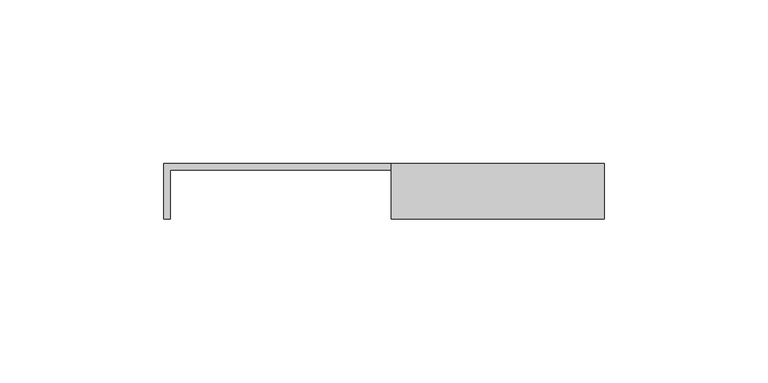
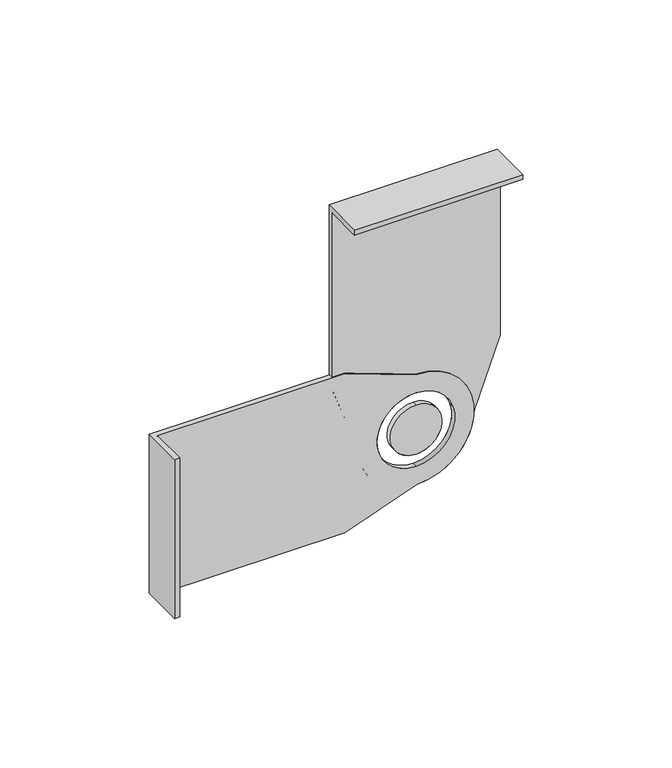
"""IFC4 building model written with IfcOpenShell, lengths in millimetres: cable carrier fitting geometry, BAKS_LD_TEE_Articulated connector attachable_LDD : LDDC_H45."""

import ifcopenshell
import ifcopenshell.guid

model = None  # the IFC model being written
_history = None  # IfcOwnerHistory: only IFC2X3 demands one
_inside = {}  # id of a spatial element -> (the spatial element, [elements in it])
_under = {}  # id of a project, library or spatial element -> (it, [spatial elements below it])
_declared = {}  # id of a project -> (the project, [libraries it declares])
_typed = {}  # id of a type object -> (the type object, [elements of that type])
_made_of = {}  # id of a material, layer set ... -> (it, [elements and type objects made of it])


def new_model(schema):
    """Start an empty IFC model of exactly this schema.

    Asked for "IFC4X3", IfcOpenShell would pick the latest addendum, in which some entities
    have other attributes; the version numbers below select the first issue.
    IFC2X3 requires an IfcOwnerHistory on every rooted entity: one is made here for all.
    """
    global model, _history
    if schema == "IFC4X3":
        model = ifcopenshell.file(schema_version=(4, 3, 0, 0))
    else:
        model = ifcopenshell.file(schema=schema)
    _inside.clear()
    _under.clear()
    _declared.clear()
    _typed.clear()
    _made_of.clear()
    _history = None
    if model.schema == "IFC2X3":
        org = make("IfcOrganization", Name="unknown")
        user = make(
            "IfcPersonAndOrganization",
            ThePerson=make("IfcPerson", FamilyName="unknown"),
            TheOrganization=org,
        )
        app = make(
            "IfcApplication",
            ApplicationDeveloper=org,
            Version="unknown",
            ApplicationFullName="unknown",
            ApplicationIdentifier="unknown",
        )
        _history = make(
            "IfcOwnerHistory",
            OwningUser=user,
            OwningApplication=app,
            ChangeAction="ADDED",
            CreationDate=0,
        )
    return model


def make(cls, **values):
    """One entity of the class cls with the attributes given. An attribute that is None is left unset."""
    return model.create_entity(
        cls, **{name: value for name, value in values.items() if value is not None}
    )


def rooted(cls, **values):
    """An entity with a GlobalId (a new one), such as an element, a storey or a relation."""
    return make(cls, GlobalId=ifcopenshell.guid.new(), OwnerHistory=_history, **values)


def si_unit(unit_type, name, prefix=None):
    """IfcSIUnit, for example si_unit("LENGTHUNIT", "METRE", prefix="MILLI")."""
    return make("IfcSIUnit", UnitType=unit_type, Prefix=prefix, Name=name)


def assignment(units):
    """IfcUnitAssignment: the units of a project."""
    return None if units is None else make("IfcUnitAssignment", Units=units)


def point(xyz):
    """IfcCartesianPoint."""
    return None if xyz is None else make("IfcCartesianPoint", Coordinates=xyz)


def direction(xyz):
    """IfcDirection."""
    return None if xyz is None else make("IfcDirection", DirectionRatios=xyz)


def frame(location, z_axis=None, x_axis=None):
    """IfcAxis2Placement3D, a coordinate frame: its origin and axes. An axis left out is left unset."""
    return make(
        "IfcAxis2Placement3D",
        Location=point(location),
        Axis=direction(z_axis),
        RefDirection=direction(x_axis),
    )


def origin():
    """The frame at (0, 0, 0) with its axes left unset."""
    return frame((0.0, 0.0, 0.0))


def place(relative_to, where):
    """IfcLocalPlacement: puts the frame where relative to a parent placement (None: the world)."""
    return make(
        "IfcLocalPlacement", PlacementRelTo=relative_to, RelativePlacement=where
    )


def context(
    kind, dimensions, precision=None, world=None, true_north=None, identifier=None
):
    """IfcGeometricRepresentationContext, for example the 3D "Model" context."""
    return make(
        "IfcGeometricRepresentationContext",
        ContextIdentifier=identifier,
        ContextType=kind,
        CoordinateSpaceDimension=dimensions,
        Precision=precision,
        WorldCoordinateSystem=world,
        TrueNorth=true_north,
    )


def project(units=None, contexts=None):
    """IfcProject with its units and contexts."""
    return rooted(
        "IfcProject",
        Name="project",
        RepresentationContexts=contexts,
        UnitsInContext=assignment(units),
    )


def spatial(cls, under=None, at=None, **own):
    """A site, building, storey or space (cls), placed at a placement, below another one or the project."""
    s = rooted(cls, ObjectPlacement=at, **own)
    if under is not None:
        _under.setdefault(under.id(), (under, []))[1].append(s)
    return s


def polyline(points):
    """IfcPolyline through the points."""
    return make("IfcPolyline", Points=[point(p) for p in points])


def circle_curve(where, radius):
    """IfcCircle in the frame where."""
    return make("IfcCircle", Position=where, Radius=radius)


def shape(context_of_items, identifier, shape_type, items):
    """IfcShapeRepresentation: the items that make up one representation, for example the "Body"."""
    return make(
        "IfcShapeRepresentation",
        ContextOfItems=context_of_items,
        RepresentationIdentifier=identifier,
        RepresentationType=shape_type,
        Items=items,
    )


def source(mapping_origin, context_of_items, identifier, shape_type, items):
    """IfcRepresentationMap: a shape defined once, which mapped items show again and again."""
    return make(
        "IfcRepresentationMap",
        MappingOrigin=mapping_origin,
        MappedRepresentation=shape(context_of_items, identifier, shape_type, items),
    )


def transform(
    local_origin,
    x_axis=None,
    y_axis=None,
    z_axis=None,
    scale=None,
    scale2=None,
    scale3=None,
    uniform=True,
):
    """IfcCartesianTransformationOperator3D, or its non-uniform kind. x_axis, y_axis, z_axis: its Axis1, 2, 3."""
    if uniform:
        return make(
            "IfcCartesianTransformationOperator3D",
            Axis1=direction(x_axis),
            Axis2=direction(y_axis),
            LocalOrigin=point(local_origin),
            Scale=scale,
            Axis3=direction(z_axis),
        )
    return make(
        "IfcCartesianTransformationOperator3DnonUniform",
        Axis1=direction(x_axis),
        Axis2=direction(y_axis),
        LocalOrigin=point(local_origin),
        Scale=scale,
        Axis3=direction(z_axis),
        Scale2=scale2,
        Scale3=scale3,
    )


def mapped(mapping_source, mapping_target):
    """IfcMappedItem: shows the shape of a source again, moved by a transform."""
    return make(
        "IfcMappedItem", MappingSource=mapping_source, MappingTarget=mapping_target
    )


def made_of(thing, what):
    """Note that an element or type object is made of a material, layer set ...; save() writes the relation."""
    if what is not None:
        _made_of.setdefault(what.id(), (what, []))[1].append(thing)
    return thing


def element(
    cls,
    number,
    at=None,
    inside=None,
    cuts=None,
    type_object=None,
    material=None,
    context=None,
    identifier="Body",
    shape_type=None,
    held_by="IfcProductDefinitionShape",
    body=None,
    shapes=None,
    **own,
):
    """One element of the class cls, such as IfcWall. Its Tag is "e" and its number.

    at: its placement. inside: the storey or other place that contains it. cuts: it is an
    opening in that element (IfcRelVoidsElement). A single representation is given by context,
    identifier, shape_type and body (its items); several are given by shapes. held_by: the class
    of the entity that holds the representations. save() writes the other relations.
    """
    e = rooted(cls, Tag="e%d" % number, ObjectPlacement=at, **own)
    if body is not None:
        shapes = [shape(context, identifier, shape_type, body)]
    if shapes is not None:
        e.Representation = make(held_by, Representations=shapes)
    if inside is not None:
        _inside.setdefault(inside.id(), (inside, []))[1].append(e)
    if cuts is not None:
        rooted(
            "IfcRelVoidsElement", RelatingBuildingElement=cuts, RelatedOpeningElement=e
        )
    if type_object is not None:
        _typed.setdefault(type_object.id(), (type_object, []))[1].append(e)
    return made_of(e, material)


def aggregate(whole, parts):
    """IfcRelAggregates: a whole, such as a stair, and the parts it consists of."""
    return rooted("IfcRelAggregates", RelatingObject=whole, RelatedObjects=parts)


def save(model, path):
    """Write the relations noted so far, then the file.

    IfcRelAggregates (storeys below a building ...), IfcRelContainedInSpatialStructure (elements
    in a storey), IfcRelDefinesByType, IfcRelAssociatesMaterial and IfcRelDeclares: one each for
    every whole, place, type object, material and project.
    """
    for whole, parts in _under.values():
        aggregate(whole, parts)
    for where, things in _inside.values():
        rooted(
            "IfcRelContainedInSpatialStructure",
            RelatedElements=things,
            RelatingStructure=where,
        )
    for kind, things in _typed.values():
        rooted("IfcRelDefinesByType", RelatedObjects=things, RelatingType=kind)
    for what, things in _made_of.values():
        rooted("IfcRelAssociatesMaterial", RelatedObjects=things, RelatingMaterial=what)
    for by, libraries in _declared.values():
        rooted("IfcRelDeclares", RelatingContext=by, RelatedDefinitions=libraries)
    model.write(path)


def plane_surface(at):
    """IfcPlane: the flat surface through the origin of the frame at, square to its z axis."""
    return make("IfcPlane", Position=at)


def cylinder_surface(at, radius):
    """IfcCylindricalSurface: all points at the distance radius from the z axis of the frame at."""
    return make("IfcCylindricalSurface", Position=at, Radius=radius)


def revolved_surface(curve, axis_point, axis_direction):
    """IfcSurfaceOfRevolution: the curve turned about the line through axis_point along axis_direction."""
    return make(
        "IfcSurfaceOfRevolution",
        SweptCurve=make("IfcArbitraryOpenProfileDef", ProfileType="CURVE", Curve=curve),
        AxisPosition=make("IfcAxis1Placement", Location=point(axis_point), Axis=direction(axis_direction)),
    )


def advanced_brep(points, edges, surfaces, faces):
    """IfcAdvancedBrep: a solid bounded by faces that lie on surfaces and meet in shared edges.

    An edge is (start, end): straight between two places in points (the first is 0);
    or (start, end, curve); or (start, end, curve, False) where it runs against its curve.
    A face is (place in surfaces, loops), or (place, loops, False) where it looks against
    its surface's normal. A loop lists edges by number (the first is 1), with a minus sign
    where the edge is run from its end to its start. The first loop is the outer one.
    """
    corners = [point(p) for p in points]
    vertices = [make("IfcVertexPoint", VertexGeometry=c) for c in corners]
    made = []
    for start, end, *more in edges:
        made.append(
            make(
                "IfcEdgeCurve",
                EdgeStart=vertices[start],
                EdgeEnd=vertices[end],
                EdgeGeometry=more[0] if more else make("IfcPolyline", Points=[corners[start], corners[end]]),
                SameSense=more[1] if len(more) > 1 else True,
            )
        )
    hull = []
    for where, loops, *sense in faces:
        bounds = []
        for j, loop in enumerate(loops):
            ring = [make("IfcOrientedEdge", EdgeElement=made[abs(k) - 1], Orientation=k > 0) for k in loop]
            bounds.append(
                make(
                    "IfcFaceOuterBound" if j == 0 else "IfcFaceBound",
                    Bound=make("IfcEdgeLoop", EdgeList=ring),
                    Orientation=True,
                )
            )
        hull.append(make("IfcAdvancedFace", Bounds=bounds, FaceSurface=surfaces[where], SameSense=sense[0] if sense else True))
    return make("IfcAdvancedBrep", Outer=make("IfcClosedShell", CfsFaces=hull))


def cable_carrier_fitting_ea2b664d(model_context):
    return source(origin(), model_context, "Body", "AdvancedBrep", [
        advanced_brep(
        [(0.0, 2.0, 10.0), (0.0, 2.0, -10.0), (0.0, 0.0, -10.0), (0.0, 0.0, 10.0)],
        [
            (0, 1, circle_curve(frame((0.0, 2.0, 0.0), z_axis=(0.0, 1.0, 0.0), x_axis=(0.0, 0.0, 1.0)), 10.0)),
            (1, 0, circle_curve(frame((0.0, 2.0, 0.0), z_axis=(0.0, 1.0, 0.0), x_axis=(0.0, 0.0, 1.0)), 10.0)),
            (2, 3, circle_curve(frame((0.0, 0.0, 0.0), z_axis=(0.0, -1.0, 0.0), x_axis=(0.0, 0.0, 1.0)), 10.0)),
            (3, 2, circle_curve(frame((0.0, 0.0, 0.0), z_axis=(0.0, -1.0, 0.0), x_axis=(0.0, 0.0, 1.0)), 10.0)),
            (1, 2),
            (3, 0),
        ],
        [
            plane_surface(frame((-100.0, 2.0, -32.5), z_axis=(0.0, 1.0, 0.0), x_axis=(0.0, 0.0, -1.0))),
            plane_surface(frame((-100.0, 0.0, -32.5), z_axis=(0.0, -1.0, 0.0), x_axis=(0.0, 0.0, 1.0))),
            cylinder_surface(frame((0.0, 0.0, 0.0), z_axis=(0.0, -1.0, 0.0), x_axis=(0.0, 0.0, 1.0)), 10.0),
        ],
        [
            (0, [[1, 2]]),
            (1, [[3, 4]]),
            (2, [[-2, 5, -4, 6]]),
            (2, [[-3, -5, -1, -6]]),
        ],
    ),
        advanced_brep(
        [(-27.5, 2.0, -32.5), (-102.0, 2.0, -32.5), (-102.0, 2.0, 32.5), (-27.5, 2.0, 32.5), (0.0, 2.0, 22.5), (0.0, 2.0, -22.5), (0.0, 2.0, 15.0), (0.0, 2.0, -15.0), (-100.0, 0.0, 32.5), (-100.0, 0.0, -32.5), (-27.5, 0.0, -32.5), (0.0, 0.0, -22.5), (0.0, 0.0, 22.5), (-27.5, 0.0, 32.5), (0.0, 0.0, -15.0), (0.0, 0.0, 15.0), (-100.0, -15.0, -32.5), (-102.0, -15.0, -32.5), (-102.0, -15.0, 32.5), (-100.0, -15.0, 32.5)],
        [
            (0, 1),
            (1, 2),
            (2, 3),
            (3, 4),
            (4, 5, circle_curve(frame((0.0, 2.0, 0.0), z_axis=(0.0, 1.0, 0.0), x_axis=(0.0, 0.0, 1.0)), 22.5)),
            (5, 0),
            (6, 7, circle_curve(frame((0.0, 2.0, 0.0), z_axis=(0.0, -1.0, 0.0), x_axis=(0.0, 0.0, 1.0)), 15.0)),
            (7, 6, circle_curve(frame((0.0, 2.0, 0.0), z_axis=(0.0, -1.0, 0.0), x_axis=(0.0, 0.0, 1.0)), 15.0)),
            (8, 9),
            (9, 10),
            (10, 11),
            (11, 12, circle_curve(frame((0.0, 0.0, 0.0), z_axis=(0.0, -1.0, 0.0), x_axis=(0.0, 0.0, 1.0)), 22.5)),
            (12, 13),
            (13, 8),
            (14, 15, circle_curve(frame((0.0, 0.0, 0.0), z_axis=(0.0, 1.0, 0.0), x_axis=(0.0, 0.0, 1.0)), 15.0)),
            (15, 14, circle_curve(frame((0.0, 0.0, 0.0), z_axis=(0.0, 1.0, 0.0), x_axis=(0.0, 0.0, 1.0)), 15.0)),
            (0, 10),
            (9, 16),
            (16, 17),
            (17, 1),
            (5, 11),
            (4, 12),
            (3, 13),
            (2, 18),
            (18, 19),
            (19, 8),
            (7, 14),
            (15, 6),
            (19, 16),
            (17, 18),
        ],
        [
            plane_surface(frame((-100.0, 2.0, -32.5), z_axis=(0.0, 1.0, 0.0), x_axis=(0.0, 0.0, -1.0))),
            plane_surface(frame((-100.0, 0.0, -32.5), z_axis=(0.0, -1.0, 0.0), x_axis=(0.0, 0.0, 1.0))),
            plane_surface(frame((-100.0, 2.0, -32.5), z_axis=(0.0, 0.0, -1.0), x_axis=(0.0, -1.0, 0.0))),
            plane_surface(frame((-27.5, 2.0, -32.5), z_axis=(0.34174306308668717, 0.0, -0.9397934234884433), x_axis=(0.0, -1.0, 0.0))),
            cylinder_surface(frame((0.0, 0.0, 0.0), z_axis=(0.0, 1.0, 0.0), x_axis=(0.0, 0.0, 1.0)), 22.5),
            plane_surface(frame((0.0, 2.0, 22.5), z_axis=(0.3417430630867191, 0.0, 0.9397934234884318), x_axis=(0.0, -1.0, 0.0))),
            plane_surface(frame((-27.5, 2.0, 32.5), z_axis=(0.0, 0.0, 1.0), x_axis=(0.0, -1.0, 0.0))),
            revolved_surface(polyline([(0.0, 2.0, 15.0), (0.0, 0.0, 15.0)]), (0.0, 0.0, 0.0), (0.0, 1.0, 0.0)),
            plane_surface(frame((-100.0, 2.0, -32.5), z_axis=(1.0, 0.0, 0.0), x_axis=(0.0, 0.0, -1.0))),
            plane_surface(frame((-102.0, 2.0, -32.5), z_axis=(-1.0, 0.0, 0.0), x_axis=(0.0, 0.0, 1.0))),
            plane_surface(frame((-100.0, -15.0, -32.5), z_axis=(0.0, -1.0, 0.0), x_axis=(-1.0, 0.0, 0.0))),
        ],
        [
            (0, [[1, 2, 3, 4, 5, 6], [7, 8]]),
            (1, [[9, 10, 11, 12, 13, 14], [15, 16]]),
            (2, [[17, -10, 18, 19, 20, -1]]),
            (3, [[21, -11, -17, -6]]),
            (4, [[22, -12, -21, -5]]),
            (5, [[23, -13, -22, -4]]),
            (6, [[24, 25, 26, -14, -23, -3]]),
            (7, [[-8, 27, -16, 28]]),
            (7, [[-15, -27, -7, -28]]),
            (8, [[-18, -9, -26, 29]]),
            (9, [[-2, -20, 30, -24]]),
            (10, [[-25, -30, -19, -29]]),
        ],
    ),
        advanced_brep(
        [(10.0, 2.0, 0.0), (-10.0, 2.0, 0.0), (-10.0, 0.0, 0.0), (10.0, 0.0, 0.0)],
        [
            (0, 1, circle_curve(frame((0.0, 2.0, 0.0), z_axis=(0.0, 1.0, 0.0), x_axis=(1.0, 0.0, 0.0)), 10.0)),
            (1, 0, circle_curve(frame((0.0, 2.0, 0.0), z_axis=(0.0, 1.0, 0.0), x_axis=(1.0, 0.0, 0.0)), 10.0)),
            (2, 3, circle_curve(frame((0.0, 0.0, 0.0), z_axis=(0.0, -1.0, 0.0), x_axis=(1.0, 0.0, 0.0)), 10.0)),
            (3, 2, circle_curve(frame((0.0, 0.0, 0.0), z_axis=(0.0, -1.0, 0.0), x_axis=(1.0, 0.0, 0.0)), 10.0)),
            (1, 2),
            (3, 0),
        ],
        [
            plane_surface(frame((-32.5, 2.0, 100.0), z_axis=(0.0, 1.0, 0.0), x_axis=(-1.0, 0.0, 0.0))),
            plane_surface(frame((-32.5, 0.0, 100.0), z_axis=(0.0, -1.0, 0.0), x_axis=(1.0, 0.0, 0.0))),
            cylinder_surface(frame((0.0, 0.0, 0.0), z_axis=(0.0, -1.0, 0.0), x_axis=(1.0, 0.0, 0.0)), 10.0),
        ],
        [
            (0, [[1, 2]]),
            (1, [[3, 4]]),
            (2, [[-2, 5, -4, 6]]),
            (2, [[-3, -5, -1, -6]]),
        ],
    ),
        advanced_brep(
        [(-32.5, 2.0, 27.5), (-32.5, 2.0, 102.0), (32.5, 2.0, 102.0), (32.5, 2.0, 27.5), (22.5, 2.0, 0.0), (-22.5, 2.0, 0.0), (15.0, 2.0, 0.0), (-15.0, 2.0, 0.0), (32.5, 0.0, 100.0), (-32.5, 0.0, 100.0), (-32.5, 0.0, 27.5), (-22.5, 0.0, 0.0), (22.5, 0.0, 0.0), (32.5, 0.0, 27.5), (-15.0, 0.0, 0.0), (15.0, 0.0, 0.0), (-32.5, -15.0, 100.0), (-32.5, -15.0, 102.0), (32.5, -15.0, 102.0), (32.5, -15.0, 100.0)],
        [
            (0, 1),
            (1, 2),
            (2, 3),
            (3, 4),
            (4, 5, circle_curve(frame((0.0, 2.0, 0.0), z_axis=(0.0, 1.0, 0.0), x_axis=(1.0, 0.0, 0.0)), 22.5)),
            (5, 0),
            (6, 7, circle_curve(frame((0.0, 2.0, 0.0), z_axis=(0.0, -1.0, 0.0), x_axis=(1.0, 0.0, 0.0)), 15.0)),
            (7, 6, circle_curve(frame((0.0, 2.0, 0.0), z_axis=(0.0, -1.0, 0.0), x_axis=(1.0, 0.0, 0.0)), 15.0)),
            (8, 9),
            (9, 10),
            (10, 11),
            (11, 12, circle_curve(frame((0.0, 0.0, 0.0), z_axis=(0.0, -1.0, 0.0), x_axis=(1.0, 0.0, 0.0)), 22.5)),
            (12, 13),
            (13, 8),
            (14, 15, circle_curve(frame((0.0, 0.0, 0.0), z_axis=(0.0, 1.0, 0.0), x_axis=(1.0, 0.0, 0.0)), 15.0)),
            (15, 14, circle_curve(frame((0.0, 0.0, 0.0), z_axis=(0.0, 1.0, 0.0), x_axis=(1.0, 0.0, 0.0)), 15.0)),
            (0, 10),
            (9, 16),
            (16, 17),
            (17, 1),
            (5, 11),
            (4, 12),
            (3, 13),
            (2, 18),
            (18, 19),
            (19, 8),
            (7, 14),
            (15, 6),
            (19, 16),
            (17, 18),
        ],
        [
            plane_surface(frame((-32.5, 2.0, 100.0), z_axis=(0.0, 1.0, 0.0), x_axis=(-1.0, 0.0, 0.0))),
            plane_surface(frame((-32.5, 0.0, 100.0), z_axis=(0.0, -1.0, 0.0), x_axis=(1.0, 0.0, 0.0))),
            plane_surface(frame((-32.5, 2.0, 100.0), z_axis=(-1.0, 0.0, 0.0), x_axis=(0.0, -1.0, 0.0))),
            plane_surface(frame((-32.5, 2.0, 27.5), z_axis=(-0.9397934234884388, 0.0, -0.3417430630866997), x_axis=(0.0, -1.0, 0.0))),
            cylinder_surface(frame((0.0, 0.0, 0.0), z_axis=(0.0, 1.0, 0.0), x_axis=(1.0, 0.0, 0.0)), 22.5),
            plane_surface(frame((22.5, 2.0, 0.0), z_axis=(0.9397934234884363, 0.0, -0.34174306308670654), x_axis=(0.0, -1.0, 0.0))),
            plane_surface(frame((32.5, 2.0, 27.5), z_axis=(1.0, 0.0, 0.0), x_axis=(0.0, -1.0, 0.0))),
            revolved_surface(polyline([(15.0, 2.0, 0.0), (15.0, 0.0, 0.0)]), (0.0, 0.0, 0.0), (0.0, 1.0, 0.0)),
            plane_surface(frame((-32.5, 2.0, 100.0), z_axis=(0.0, 0.0, -1.0), x_axis=(-1.0, 0.0, 0.0))),
            plane_surface(frame((-32.5, 2.0, 102.0), z_axis=(0.0, 0.0, 1.0), x_axis=(1.0, 0.0, 0.0))),
            plane_surface(frame((-32.5, -15.0, 100.0), z_axis=(0.0, -1.0, 0.0), x_axis=(0.0, 0.0, 1.0))),
        ],
        [
            (0, [[1, 2, 3, 4, 5, 6], [7, 8]]),
            (1, [[9, 10, 11, 12, 13, 14], [15, 16]]),
            (2, [[17, -10, 18, 19, 20, -1]]),
            (3, [[21, -11, -17, -6]]),
            (4, [[22, -12, -21, -5]]),
            (5, [[23, -13, -22, -4]]),
            (6, [[24, 25, 26, -14, -23, -3]]),
            (7, [[-8, 27, -16, 28]]),
            (7, [[-15, -27, -7, -28]]),
            (8, [[-18, -9, -26, 29]]),
            (9, [[-2, -20, 30, -24]]),
            (10, [[-25, -30, -19, -29]]),
        ],
    ),
    ])


if __name__ == "__main__":
    model = new_model("IFC4")
    model_context = context("Model", 3, world=origin())
    ifc_project = project(units=[si_unit("LENGTHUNIT", "METRE", prefix="MILLI")], contexts=[model_context])
    site = spatial("IfcSite", under=ifc_project)
    building = spatial("IfcBuilding", under=site)
    placement = place(None, origin())
    cable_carrier_fitting_shape = cable_carrier_fitting_ea2b664d(model_context)
    element("IfcCableCarrierFitting", 1, ObjectType="BAKS_LD_TEE_Articulated connector attachable_LDD : LDDC_H45", at=placement, inside=building, context=model_context, shape_type="MappedRepresentation", body=[
        mapped(cable_carrier_fitting_shape, transform((0.0, 0.0, 0.0), x_axis=(1.0, 0.0, 0.0), y_axis=(0.0, 1.0, 0.0), z_axis=(0.0, 0.0, 1.0))),
    ])
    save(model, "model.ifc")
